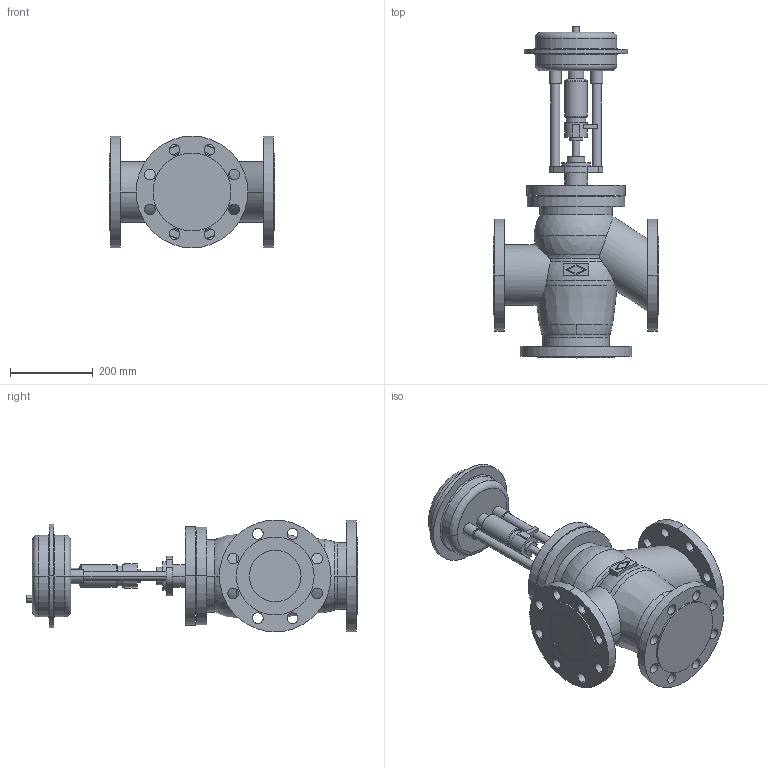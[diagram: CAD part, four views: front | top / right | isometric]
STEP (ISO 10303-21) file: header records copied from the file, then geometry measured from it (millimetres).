
FILE_DESCRIPTION(('OneSpaceDesigner STEP Export'),'2;1');
FILE_NAME('c000000649.stp','2006-09-13T12:37:45',(''),(''),'OneSpace Designer STEP processor for AP214 (Solid Model)','OneSpace Designer 13.20A 18-Aug-2005 (C) CoCreate Software GmbH','');
FILE_SCHEMA(('AUTOMOTIVE_DESIGN { 1 0 10303 214 1 1 1 1 }'));
Length unit declared in the file: millimetre
Products named in the file (2): 1; 2
Bounding box: 400 x 802 x 270 mm (x, y, z)
Volume: 22444231.4 mm3; surface area: 1020960.4 mm2
Topology: 2 solids, 2 shells, 227 faces, 566 edges, 365 vertices
Faces by surface type: cylinder 116, plane 73, torus 24, sphere 8, cone 6
Entity records: 6135 total; most frequent: CARTESIAN_POINT 1244, ORIENTED_EDGE 1116, DIRECTION 868, EDGE_CURVE 558, VERTEX_POINT 365, AXIS2_PLACEMENT_3D 326, EDGE_LOOP 305, FACE_OUTER_BOUND 227
